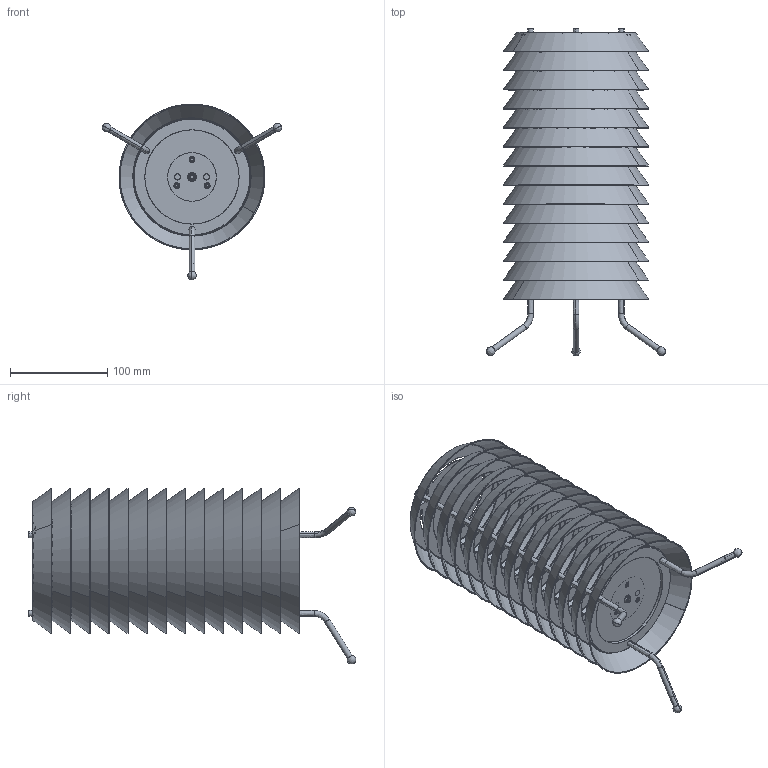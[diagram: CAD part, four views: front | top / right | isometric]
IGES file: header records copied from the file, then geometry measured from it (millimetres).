
Start section: SolidWorks IGES file using analytic representation for surfaces
Global section: file name: C:\SANTACOLE_PDM\Proyectos Catálogo\PROD-P14-013 -- MAIJA LED\6_Técnico comercial\3D\Maija15\Maija 15.IGS; native system: SolidWorks 2019; preprocessor: SolidWorks 2019; author: aina.morell; date: 200402.093925; units: millimetre
Bounding box: 184.71 x 337.32 x 180.99 mm (x, y, z)
Surface area: 509826.6 mm2 (no closed solid volume)
Topology: 0 solids, 0 shells, 914 faces, 19516 edges, 19486 vertices
Faces by surface type: revolution 524, bspline 390
